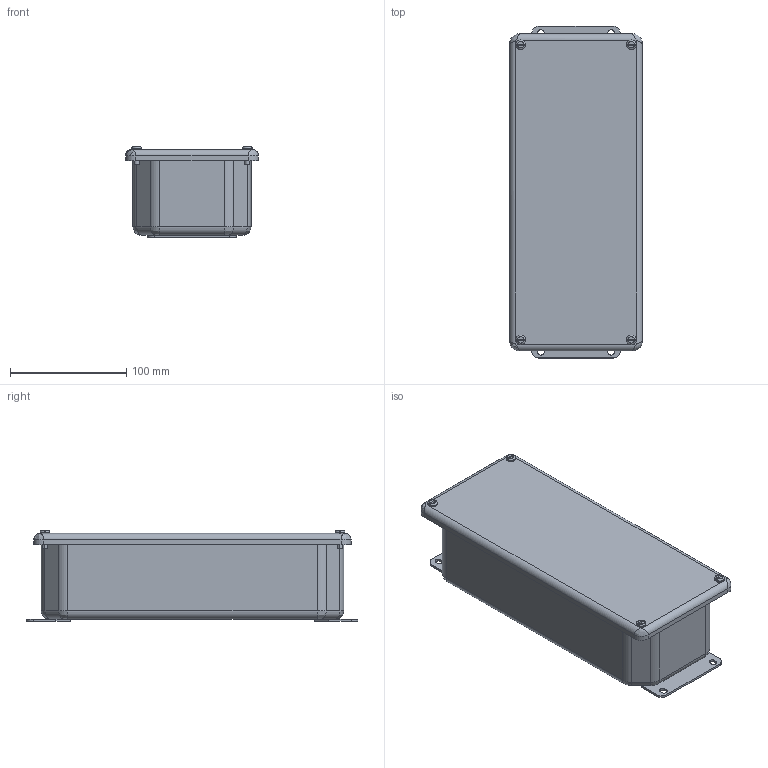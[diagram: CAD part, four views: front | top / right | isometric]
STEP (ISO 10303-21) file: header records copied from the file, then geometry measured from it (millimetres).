
FILE_DESCRIPTION((''),'1');
FILE_NAME('4','2001-04-17T',('jlue'),(''),'PRO/ENGINEER BY PARAMETRIC TECHNOLOGY CORPORATION, 9846','PRO/ENGINEER BY PARAMETRIC TECHNOLOGY CORPORATION, 9846','');
FILE_SCHEMA(('CONFIG_CONTROL_DESIGN'));
Length unit declared in the file: inch
Products named in the file (1): 4
Bounding box: 114.3 x 285.75 x 78.13 mm (x, y, z)
Surface area: 227833.6 mm2 (no closed solid volume)
Topology: 0 solids, 0 shells, 215 faces, 1096 edges, 1096 vertices
Faces by surface type: plane 95, cylinder 88, bspline 24, torus 8
Entity records: 6958 total; most frequent: CARTESIAN_POINT 2327, DIRECTION 1110, COMPOSITE_CURVE_SEGMENT 1072, TRIMMED_CURVE 512, AXIS2_PLACEMENT_3D 407, VECTOR 296, LINE 296, CIRCLE 216
